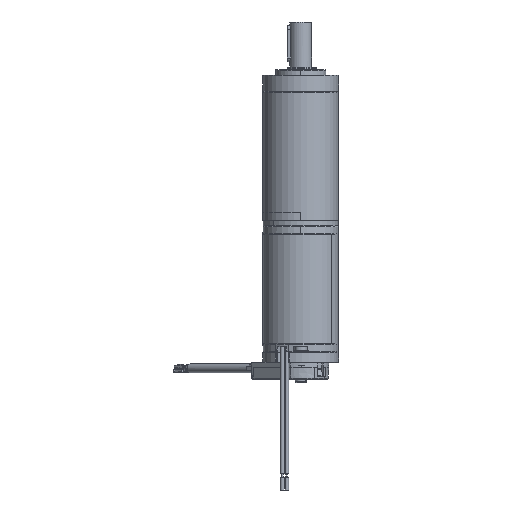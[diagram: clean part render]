
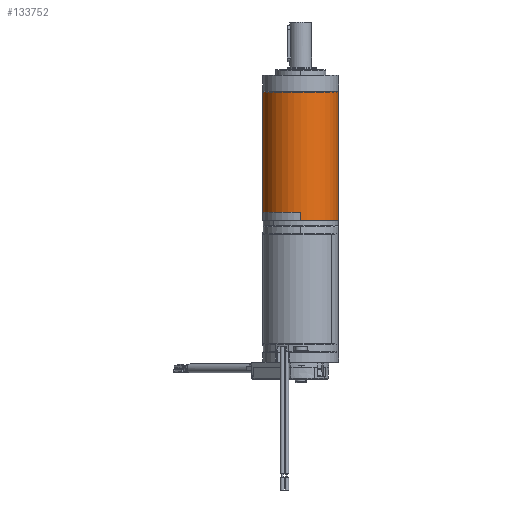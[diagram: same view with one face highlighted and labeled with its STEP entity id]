
A CAD part, left-side view. The second image highlights one B-rep face of the part: STEP entity #133752.
In plain terms, the highlighted cylindrical face has radius 21 mm (diameter 42 mm), a partial arc.
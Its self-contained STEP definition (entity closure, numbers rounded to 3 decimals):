
#7749 = AXIS2_PLACEMENT_3D ( 'NONE', #97231, #126166, #127046 ) ;
#9434 = VECTOR ( 'NONE', #91458, 1000. ) ;
#9662 = EDGE_LOOP ( 'NONE', ( #130486, #168075, #89189, #117961, #112315, #33798, #105907, #82362 ) ) ;
#10523 = VERTEX_POINT ( 'NONE', #129319 ) ;
#11640 = LINE ( 'NONE', #37140, #171013 ) ;
#14415 = EDGE_CURVE ( 'NONE', #67254, #10523, #11640, .T. ) ;
#25864 = AXIS2_PLACEMENT_3D ( 'NONE', #146148, #47308, #48175 ) ;
#27357 = DIRECTION ( 'NONE',  ( 0., 1., 0. ) ) ;
#33602 = CARTESIAN_POINT ( 'NONE',  ( 5.131, -29.599, 140.985 ) ) ;
#33798 = ORIENTED_EDGE ( 'NONE', *, *, #115661, .T. ) ;
#34088 = DIRECTION ( 'NONE',  ( 0., 0., -1. ) ) ;
#34986 = CARTESIAN_POINT ( 'NONE',  ( 5.131, -8.599, 140.985 ) ) ;
#37140 = CARTESIAN_POINT ( 'NONE',  ( -15.869, -8.599, 69.552 ) ) ;
#37427 = VECTOR ( 'NONE', #105040, 1000. ) ;
#37986 = CARTESIAN_POINT ( 'NONE',  ( -15.869, -8.599, 140.785 ) ) ;
#39222 = VERTEX_POINT ( 'NONE', #70232 ) ;
#40235 = EDGE_CURVE ( 'NONE', #139089, #158103, #46281, .T. ) ;
#40471 = CIRCLE ( 'NONE', #25864, 21. ) ;
#41320 = AXIS2_PLACEMENT_3D ( 'NONE', #73068, #168203, #57676 ) ;
#46281 = LINE ( 'NONE', #33602, #76634 ) ;
#47308 = DIRECTION ( 'NONE',  ( 0., 0., 1. ) ) ;
#48175 = DIRECTION ( 'NONE',  ( 0., 1., 0. ) ) ;
#49616 = CARTESIAN_POINT ( 'NONE',  ( 5.131, -29.599, 140.785 ) ) ;
#51169 = CIRCLE ( 'NONE', #7749, 21. ) ;
#52062 = CIRCLE ( 'NONE', #86866, 21. ) ;
#52256 = LINE ( 'NONE', #77763, #37427 ) ;
#52683 = EDGE_CURVE ( 'NONE', #175141, #144433, #52256, .T. ) ;
#52846 = DIRECTION ( 'NONE',  ( 0., 0., 1. ) ) ;
#57589 = CARTESIAN_POINT ( 'NONE',  ( 5.131, -29.599, 69.552 ) ) ;
#57676 = DIRECTION ( 'NONE',  ( -1., 0., 0. ) ) ;
#58259 = CARTESIAN_POINT ( 'NONE',  ( -15.869, -8.599, 69.552 ) ) ;
#67254 = VERTEX_POINT ( 'NONE', #58259 ) ;
#70232 = CARTESIAN_POINT ( 'NONE',  ( 5.131, -29.599, 140.785 ) ) ;
#73068 = CARTESIAN_POINT ( 'NONE',  ( 5.131, -8.599, 69.552 ) ) ;
#73599 = DIRECTION ( 'NONE',  ( 0., 0., -1. ) ) ;
#76634 = VECTOR ( 'NONE', #73599, 1000. ) ;
#77763 = CARTESIAN_POINT ( 'NONE',  ( 5.131, 12.401, 140.785 ) ) ;
#82362 = ORIENTED_EDGE ( 'NONE', *, *, #85293, .T. ) ;
#85293 = EDGE_CURVE ( 'NONE', #67254, #158103, #177262, .T. ) ;
#86866 = AXIS2_PLACEMENT_3D ( 'NONE', #122740, #52846, #27357 ) ;
#89189 = ORIENTED_EDGE ( 'NONE', *, *, #116426, .F. ) ;
#91458 = DIRECTION ( 'NONE',  ( 0., 0., -1. ) ) ;
#97231 = CARTESIAN_POINT ( 'NONE',  ( 5.131, -8.599, 140.785 ) ) ;
#105040 = DIRECTION ( 'NONE',  ( 0., 0., -1. ) ) ;
#105907 = ORIENTED_EDGE ( 'NONE', *, *, #14415, .F. ) ;
#105930 = VERTEX_POINT ( 'NONE', #37986 ) ;
#106572 = CARTESIAN_POINT ( 'NONE',  ( 5.131, -29.599, 74.035 ) ) ;
#112315 = ORIENTED_EDGE ( 'NONE', *, *, #52683, .T. ) ;
#114171 = EDGE_CURVE ( 'NONE', #175141, #105930, #51169, .T. ) ;
#115661 = EDGE_CURVE ( 'NONE', #144433, #10523, #52062, .T. ) ;
#116426 = EDGE_CURVE ( 'NONE', #105930, #39222, #40471, .T. ) ;
#117961 = ORIENTED_EDGE ( 'NONE', *, *, #114171, .F. ) ;
#122740 = CARTESIAN_POINT ( 'NONE',  ( 5.131, -8.599, 74.035 ) ) ;
#123430 = AXIS2_PLACEMENT_3D ( 'NONE', #34986, #34088, #175418 ) ;
#126166 = DIRECTION ( 'NONE',  ( 0., 0., 1. ) ) ;
#127046 = DIRECTION ( 'NONE',  ( 0., 1., 0. ) ) ;
#129319 = CARTESIAN_POINT ( 'NONE',  ( -15.869, -8.599, 74.035 ) ) ;
#130486 = ORIENTED_EDGE ( 'NONE', *, *, #40235, .F. ) ;
#131976 = EDGE_CURVE ( 'NONE', #39222, #139089, #175577, .T. ) ;
#133752 = ADVANCED_FACE ( 'NONE', ( #148293 ), #173614, .T. ) ;
#139089 = VERTEX_POINT ( 'NONE', #106572 ) ;
#144433 = VERTEX_POINT ( 'NONE', #151653 ) ;
#146148 = CARTESIAN_POINT ( 'NONE',  ( 5.131, -8.599, 140.785 ) ) ;
#148293 = FACE_OUTER_BOUND ( 'NONE', #9662, .T. ) ;
#151653 = CARTESIAN_POINT ( 'NONE',  ( 5.131, 12.401, 74.035 ) ) ;
#158103 = VERTEX_POINT ( 'NONE', #57589 ) ;
#165321 = CARTESIAN_POINT ( 'NONE',  ( 5.131, 12.401, 140.785 ) ) ;
#168075 = ORIENTED_EDGE ( 'NONE', *, *, #131976, .F. ) ;
#168203 = DIRECTION ( 'NONE',  ( 0., 0., 1. ) ) ;
#171013 = VECTOR ( 'NONE', #175829, 1000. ) ;
#173614 = CYLINDRICAL_SURFACE ( 'NONE', #123430, 21. ) ;
#175141 = VERTEX_POINT ( 'NONE', #165321 ) ;
#175418 = DIRECTION ( 'NONE',  ( 0., -1., 0. ) ) ;
#175577 = LINE ( 'NONE', #49616, #9434 ) ;
#175829 = DIRECTION ( 'NONE',  ( 0., 0., 1. ) ) ;
#177262 = CIRCLE ( 'NONE', #41320, 21. ) ;
